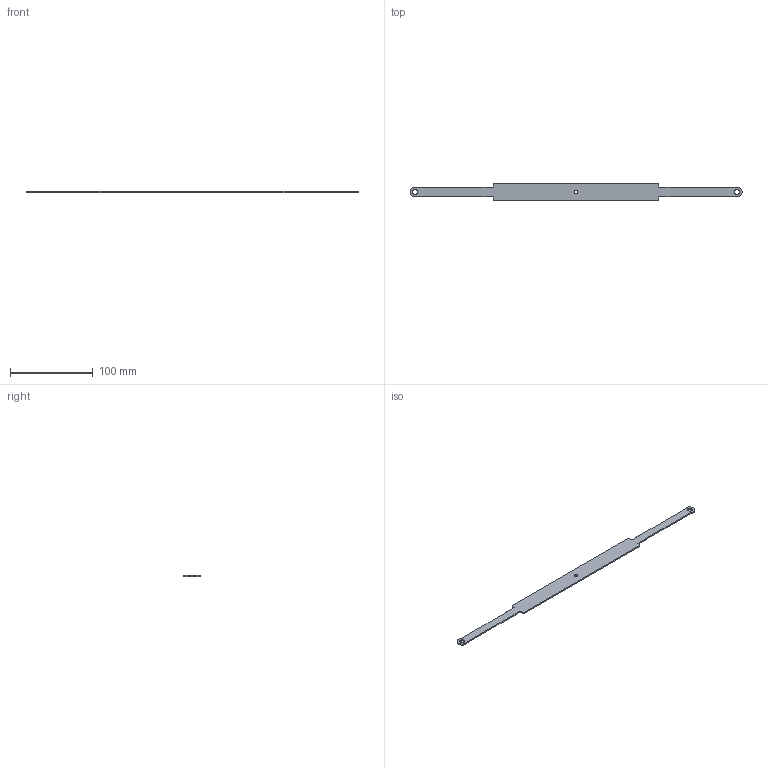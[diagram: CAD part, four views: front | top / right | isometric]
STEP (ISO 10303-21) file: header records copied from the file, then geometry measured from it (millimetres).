
FILE_DESCRIPTION(/* description */ (''),/* implementation_level */ '2;1');
FILE_NAME(/* name */ 'HEADBAND_LASERCUT_Rev02.stp',/* time_stamp */ '2020-04-07T04:10:21-07:00',/* author */ (''),/* organization */ (''),/* preprocessor_version */ 'ST-DEVELOPER v16.7',/* originating_system */ 'SIEMENS PLM Software NX 1892',/* authorisation */ '');
FILE_SCHEMA (('AUTOMOTIVE_DESIGN { 1 0 10303 214 3 1 1 1 }'));
Length unit declared in the file: millimetre
Products named in the file (1): ppp352CDE41er9c
Bounding box: 401.96 x 20 x 1.6 mm (x, y, z)
Volume: 9545.4 mm3; surface area: 13352.5 mm2
Topology: 1 solids, 1 shells, 49 faces, 141 edges, 94 vertices
Faces by surface type: cylinder 25, plane 24
Full cylindrical faces by diameter (mm): 4 x1, 5.899 x2
Entity records: 1654 total; most frequent: DIRECTION 288, CARTESIAN_POINT 282, ORIENTED_EDGE 276, EDGE_CURVE 138, AXIS2_PLACEMENT_3D 100, VERTEX_POINT 94, LINE 88, VECTOR 88
